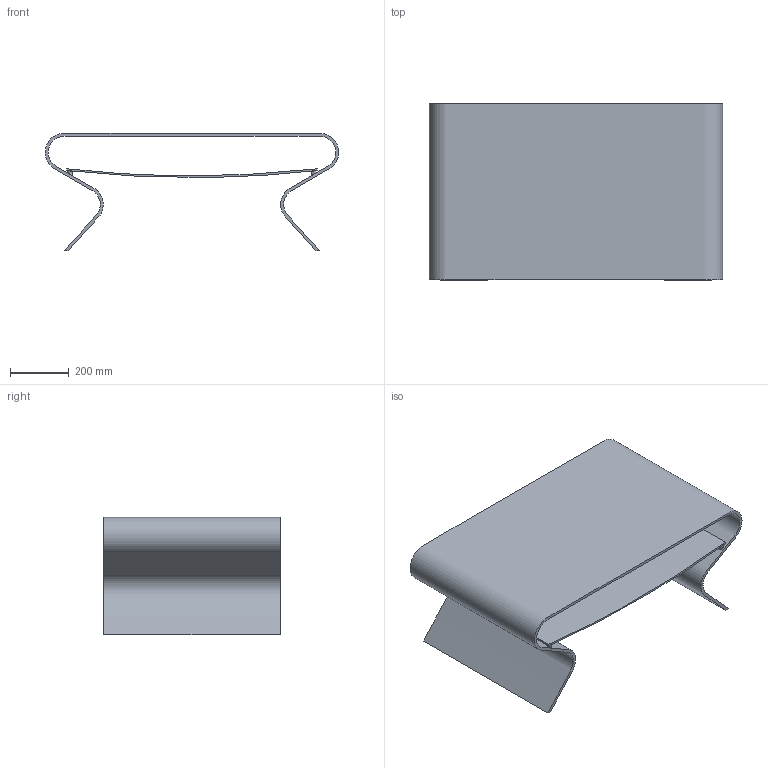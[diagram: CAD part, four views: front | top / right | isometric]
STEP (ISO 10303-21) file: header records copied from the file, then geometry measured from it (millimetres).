
FILE_DESCRIPTION(/* description */ (''),/* implementation_level */ '2;1');
FILE_NAME(/* name */ '1530 - 1531 - Charlotte con ripiano 100x60',/* time_stamp */ '2010-11-03T17:22:03+01:00',/* author */ (''),/* organization */ (''),/* preprocessor_version */ 'ST-DEVELOPER v10',/* originating_system */ '',/* authorisation */ '');
FILE_SCHEMA (('CONFIG_CONTROL_DESIGN'));
Length unit declared in the file: centimetre
Products named in the file (1): 1
Bounding box: 999.92 x 600 x 400 mm (x, y, z)
Volume: 19773901.2 mm3; surface area: 3499022.5 mm2
Topology: 6 solids, 6 shells, 28 faces, 48 edges, 32 vertices
Faces by surface type: plane 16, bspline 12
Entity records: 1020 total; most frequent: CARTESIAN_POINT 570, ORIENTED_EDGE 96, EDGE_CURVE 48, B_SPLINE_CURVE_WITH_KNOTS 40, VERTEX_POINT 32, ADVANCED_FACE 28, FACE_OUTER_BOUND 28, EDGE_LOOP 28
